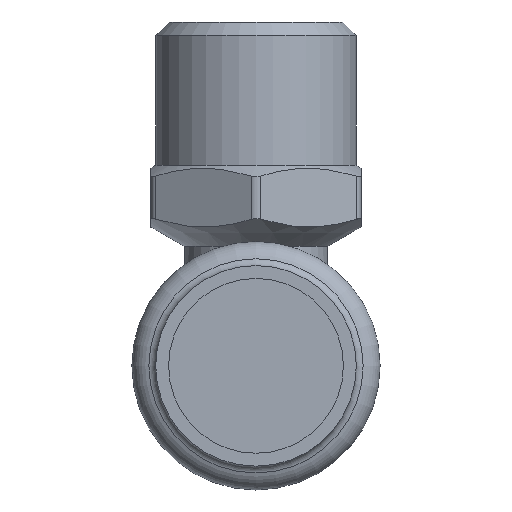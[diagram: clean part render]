
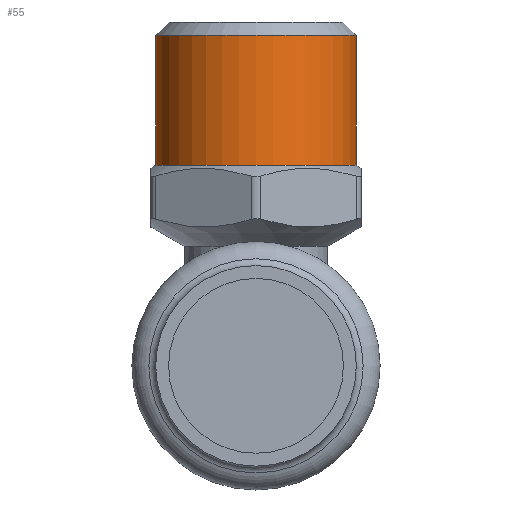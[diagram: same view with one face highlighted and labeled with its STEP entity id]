
A CAD part, front view. The second image highlights one B-rep face of the part: STEP entity #55.
In plain terms, the highlighted cylindrical face has radius 10.477 mm (diameter 20.955 mm), a full revolution.
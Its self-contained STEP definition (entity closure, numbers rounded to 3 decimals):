
#55=ADVANCED_FACE('',(#106,#108),#110,.T.);
#106=FACE_OUTER_BOUND('',#107,.T.);
#107=EDGE_LOOP('',(#398));
#108=FACE_OUTER_BOUND('',#109,.T.);
#109=EDGE_LOOP('',(#399));
#110=CYLINDRICAL_SURFACE('',#111,10.478);
#111=AXIS2_PLACEMENT_3D('',#112,#113,#114);
#112=CARTESIAN_POINT('',(0.,0.,21.));
#113=DIRECTION('',(0.,0.,1.));
#114=DIRECTION('',(-1.,0.,0.));
#398=ORIENTED_EDGE('',*,*,#522,.F.);
#399=ORIENTED_EDGE('',*,*,#523,.T.);
#522=EDGE_CURVE('',#586,#586,#587,.T.);
#523=EDGE_CURVE('',#588,#588,#589,.T.);
#586=VERTEX_POINT('',#703);
#587=CIRCLE('',#704,10.478);
#588=VERTEX_POINT('',#708);
#589=CIRCLE('',#709,10.478);
#703=CARTESIAN_POINT('',(-10.478,0.,34.6));
#704=AXIS2_PLACEMENT_3D('',#705,#706,#707);
#705=CARTESIAN_POINT('',(0.,0.,34.6));
#706=DIRECTION('',(0.,0.,1.));
#707=DIRECTION('',(-1.,0.,0.));
#708=CARTESIAN_POINT('',(-10.478,0.,21.));
#709=AXIS2_PLACEMENT_3D('',#710,#711,#712);
#710=CARTESIAN_POINT('',(0.,0.,21.));
#711=DIRECTION('',(0.,0.,1.));
#712=DIRECTION('',(-1.,0.,0.));
